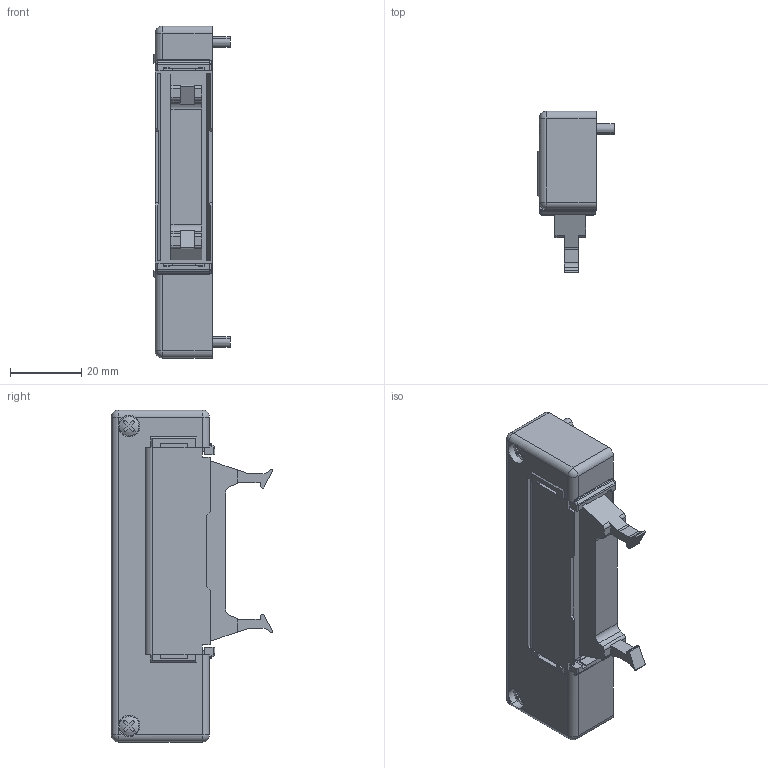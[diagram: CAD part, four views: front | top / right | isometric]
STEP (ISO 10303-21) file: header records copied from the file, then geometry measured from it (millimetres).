
FILE_DESCRIPTION( (''), '2;1');
FILE_NAME ('CVICAD32.25716.FZX-F260N_10756.stp','2020-09-09T09:20:39',(''),(''),'spGate 12.6.6','','');
FILE_SCHEMA (('AUTOMOTIVE_DESIGN'));
Length unit declared in the file: millimetre
Products named in the file (3): Assembly; CVICAD32-prt0; CVICAD32-prt1
Assembly tree (2 placements, depth 2):
  Assembly
    CVICAD32-prt0
    CVICAD32-prt1
Bounding box: 21.4 x 45.2 x 93 mm (x, y, z)
Volume: 36646.8 mm3; surface area: 14621.2 mm2
Topology: 2 solids, 2 shells, 327 faces, 952 edges, 610 vertices
Faces by surface type: plane 225, cylinder 77, sphere 20, bspline 5
Entity records: 18088 total; most frequent: CARTESIAN_POINT 2093, ORIENTED_EDGE 1872, DIRECTION 1764, COLOUR_RGB 1265, PRESENTATION_STYLE_ASSIGNMENT 1265, STYLED_ITEM 1265, EDGE_CURVE 936, DRAUGHTING_PRE_DEFINED_CURVE_FONT 936
